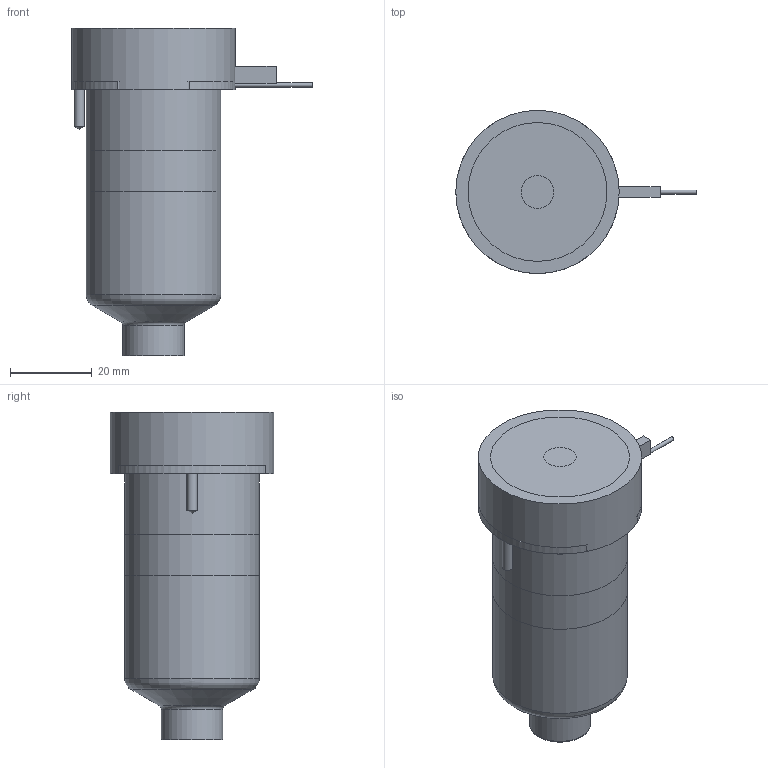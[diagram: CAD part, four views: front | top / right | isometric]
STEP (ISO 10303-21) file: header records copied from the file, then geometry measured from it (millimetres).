
FILE_DESCRIPTION(/* description */ (''),/* implementation_level */ '2;1');
FILE_NAME(/* name */ 'BXTVBE-BXIVBE-BXOVBE19065_200C_b',/* time_stamp */ '2007-01-18T10:02:44+13:00',/* author */ (''),/* organization */ (''),/* preprocessor_version */ 'ST-DEVELOPER v9',/* originating_system */ 'UGS - NX 4.0',/* authorisation */ '');
FILE_SCHEMA (('CONFIG_CONTROL_DESIGN'));
Length unit declared in the file: millimetre
Products named in the file (1): BXTVBE-BXIVBE-BXOVBE19065_200C_b
Bounding box: 58.85 x 40 x 80.17 mm (x, y, z)
Volume: 128469 mm3; surface area: 23621.3 mm2
Topology: 6 solids, 6 shells, 75 faces, 148 edges, 95 vertices
Faces by surface type: plane 35, cylinder 23, cone 9, torus 7, bspline 1
Full cylindrical faces by diameter (mm): 1 x3, 2.5 x2, 3 x1, 8 x1, 14.61 x1, 15.01 x2, 18.3 x1, 28.6 x1, 33 x2, 40 x1
Entity records: 1880 total; most frequent: CARTESIAN_POINT 379, DIRECTION 314, ORIENTED_EDGE 222, AXIS2_PLACEMENT_3D 138, EDGE_LOOP 114, EDGE_CURVE 111, VERTEX_POINT 88, ADVANCED_FACE 75
